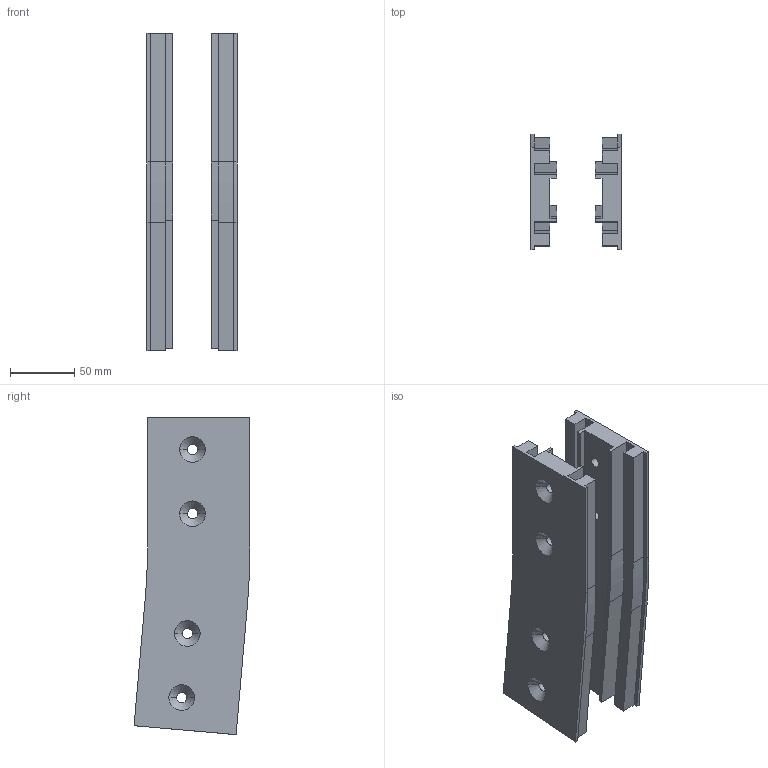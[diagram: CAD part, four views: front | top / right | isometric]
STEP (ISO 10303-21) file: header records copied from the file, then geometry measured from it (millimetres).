
FILE_DESCRIPTION (( 'STEP AP203' ), '1' );
FILE_NAME ('R1CV500-5.STEP', '2008-11-20T10:20:33', ( 'faber' ), ( '' ), 'SwSTEP 2.0', 'SolidWorks 2008', '' );
FILE_SCHEMA (( 'CONFIG_CONTROL_DESIGN' ));
Length unit declared in the file: millimetre
Products named in the file (1): R1CV500-5
Bounding box: 70 x 90.07 x 246.67 mm (x, y, z)
Volume: 433056.9 mm3; surface area: 131084.8 mm2
Topology: 2 solids, 2 shells, 116 faces, 320 edges, 208 vertices
Faces by surface type: plane 64, cylinder 36, cone 16
Entity records: 3791 total; most frequent: CARTESIAN_POINT 645, DIRECTION 642, ORIENTED_EDGE 640, EDGE_CURVE 320, LINE 232, VECTOR 232, VERTEX_POINT 208, AXIS2_PLACEMENT_3D 205
